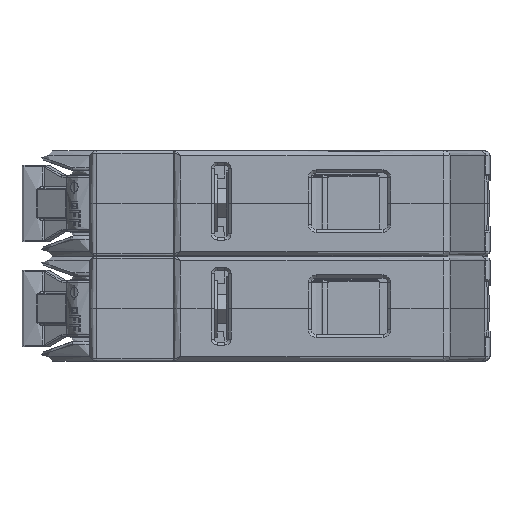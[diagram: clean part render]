
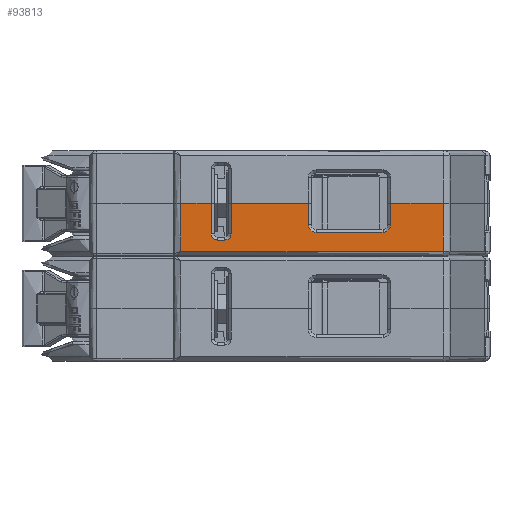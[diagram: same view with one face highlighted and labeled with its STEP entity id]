
A CAD part, left-side view. The second image highlights one B-rep face of the part: STEP entity #93813.
In plain terms, the highlighted planar face has unit normal (-1, 0, 0).
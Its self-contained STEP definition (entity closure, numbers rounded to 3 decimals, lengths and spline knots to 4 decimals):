
#1330=LINE($,#133431,#12550);
#1570=LINE($,#134548,#12790);
#1571=LINE($,#134552,#12791);
#1572=LINE($,#134554,#12792);
#1573=LINE($,#134556,#12793);
#1574=LINE($,#134560,#12794);
#1575=LINE($,#134564,#12795);
#1576=LINE($,#134566,#12796);
#1577=LINE($,#134567,#12797);
#1578=LINE($,#134569,#12798);
#1579=LINE($,#134571,#12799);
#1580=LINE($,#134575,#12800);
#12550=VECTOR($,#106883,1.7176);
#12790=VECTOR($,#107439,0.313);
#12791=VECTOR($,#107442,0.139);
#12792=VECTOR($,#107443,0.505);
#12793=VECTOR($,#107444,0.2);
#12794=VECTOR($,#107447,0.05);
#12795=VECTOR($,#107450,0.2);
#12796=VECTOR($,#107451,0.199);
#12797=VECTOR($,#107452,0.313);
#12798=VECTOR($,#107453,0.3436);
#12799=VECTOR($,#107454,0.139);
#12800=VECTOR($,#107457,0.438);
#26215=FACE_OUTER_BOUND($,#31150,.T.);
#31150=EDGE_LOOP($,(#64952,#64953,#64954,#64955,#64956,#64957,#64958,#64959,
#64960,#64961,#64962,#64963,#64964,#64965,#64966,#64967));
#36466=CIRCLE($,#99007,0.04);
#36467=CIRCLE($,#99008,0.04);
#36468=CIRCLE($,#99009,0.051);
#36469=CIRCLE($,#99010,0.051);
#39086=VERTEX_POINT($,#133426);
#39087=VERTEX_POINT($,#133430);
#39372=VERTEX_POINT($,#134546);
#39373=VERTEX_POINT($,#134550);
#39374=VERTEX_POINT($,#134551);
#39375=VERTEX_POINT($,#134553);
#39376=VERTEX_POINT($,#134555);
#39377=VERTEX_POINT($,#134557);
#39378=VERTEX_POINT($,#134559);
#39379=VERTEX_POINT($,#134561);
#39380=VERTEX_POINT($,#134563);
#39381=VERTEX_POINT($,#134565);
#39382=VERTEX_POINT($,#134568);
#39383=VERTEX_POINT($,#134570);
#39384=VERTEX_POINT($,#134572);
#39385=VERTEX_POINT($,#134574);
#49199=EDGE_CURVE($,#39086,#39087,#1330,.T.);
#49547=EDGE_CURVE($,#39086,#39372,#1570,.T.);
#49548=EDGE_CURVE($,#39373,#39374,#1571,.T.);
#49549=EDGE_CURVE($,#39374,#39375,#1572,.T.);
#49550=EDGE_CURVE($,#39375,#39376,#1573,.T.);
#49551=EDGE_CURVE($,#39376,#39377,#36466,.T.);
#49552=EDGE_CURVE($,#39377,#39378,#1574,.T.);
#49553=EDGE_CURVE($,#39378,#39379,#36467,.T.);
#49554=EDGE_CURVE($,#39379,#39380,#1575,.T.);
#49555=EDGE_CURVE($,#39380,#39381,#1576,.T.);
#49556=EDGE_CURVE($,#39381,#39087,#1577,.T.);
#49557=EDGE_CURVE($,#39372,#39382,#1578,.T.);
#49558=EDGE_CURVE($,#39382,#39383,#1579,.T.);
#49559=EDGE_CURVE($,#39383,#39384,#36468,.T.);
#49560=EDGE_CURVE($,#39384,#39385,#1580,.T.);
#49561=EDGE_CURVE($,#39385,#39373,#36469,.T.);
#64952=ORIENTED_EDGE($,*,*,#49548,.T.);
#64953=ORIENTED_EDGE($,*,*,#49549,.T.);
#64954=ORIENTED_EDGE($,*,*,#49550,.T.);
#64955=ORIENTED_EDGE($,*,*,#49551,.T.);
#64956=ORIENTED_EDGE($,*,*,#49552,.T.);
#64957=ORIENTED_EDGE($,*,*,#49553,.T.);
#64958=ORIENTED_EDGE($,*,*,#49554,.T.);
#64959=ORIENTED_EDGE($,*,*,#49555,.T.);
#64960=ORIENTED_EDGE($,*,*,#49556,.T.);
#64961=ORIENTED_EDGE($,*,*,#49199,.F.);
#64962=ORIENTED_EDGE($,*,*,#49547,.T.);
#64963=ORIENTED_EDGE($,*,*,#49557,.T.);
#64964=ORIENTED_EDGE($,*,*,#49558,.T.);
#64965=ORIENTED_EDGE($,*,*,#49559,.T.);
#64966=ORIENTED_EDGE($,*,*,#49560,.T.);
#64967=ORIENTED_EDGE($,*,*,#49561,.T.);
#90707=PLANE($,#99006);
#93813=ADVANCED_FACE($,(#26215),#90707,.T.);
#99006=AXIS2_PLACEMENT_3D($,#134549,#107440,#107441);
#99007=AXIS2_PLACEMENT_3D($,#134558,#107445,#107446);
#99008=AXIS2_PLACEMENT_3D($,#134562,#107448,#107449);
#99009=AXIS2_PLACEMENT_3D($,#134573,#107455,#107456);
#99010=AXIS2_PLACEMENT_3D($,#134576,#107458,#107459);
#106883=DIRECTION($,(0.,1.,0.));
#107439=DIRECTION($,(0.,0.,1.));
#107440=DIRECTION('center_axis',(-1.,0.,0.));
#107441=DIRECTION('ref_axis',(0.,-1.,0.));
#107442=DIRECTION($,(0.,0.,1.));
#107443=DIRECTION($,(0.,1.,0.));
#107444=DIRECTION($,(0.,0.,-1.));
#107445=DIRECTION('center_axis',(1.,0.,0.));
#107446=DIRECTION('ref_axis',(0.,0.,-1.));
#107447=DIRECTION($,(0.,1.,0.));
#107448=DIRECTION('center_axis',(1.,0.,0.));
#107449=DIRECTION('ref_axis',(0.,0.,-1.));
#107450=DIRECTION($,(0.,0.,1.));
#107451=DIRECTION($,(0.,1.,0.));
#107452=DIRECTION($,(0.,0.,-1.));
#107453=DIRECTION($,(0.,1.,0.));
#107454=DIRECTION($,(0.,0.,-1.));
#107455=DIRECTION('center_axis',(1.,0.,0.));
#107456=DIRECTION('ref_axis',(0.,0.,-1.));
#107457=DIRECTION($,(0.,1.,0.));
#107458=DIRECTION('center_axis',(1.,0.,0.));
#107459=DIRECTION('ref_axis',(0.,0.,-1.));
#133426=CARTESIAN_POINT('',(-1.73,-1.5746,-0.313));
#133430=CARTESIAN_POINT('',(-1.73,0.143,-0.313));
#133431=CARTESIAN_POINT($,(-1.73,-1.5746,-0.313));
#134546=CARTESIAN_POINT('',(-1.73,-1.5746,0.));
#134548=CARTESIAN_POINT($,(-1.73,-1.5746,-0.313));
#134549=CARTESIAN_POINT('Origin',(-1.73,0.19,0.));
#134550=CARTESIAN_POINT('',(-1.73,-0.691,-0.139));
#134551=CARTESIAN_POINT('',(-1.73,-0.691,0.));
#134552=CARTESIAN_POINT($,(-1.73,-0.691,-0.0348));
#134553=CARTESIAN_POINT('',(-1.73,-0.186,0.));
#134554=CARTESIAN_POINT($,(-1.73,-0.691,0.));
#134555=CARTESIAN_POINT('',(-1.73,-0.186,-0.2));
#134556=CARTESIAN_POINT($,(-1.73,-0.186,-0.05));
#134557=CARTESIAN_POINT('',(-1.73,-0.146,-0.24));
#134558=CARTESIAN_POINT('Origin',(-1.73,-0.146,-0.2));
#134559=CARTESIAN_POINT('',(-1.73,-0.096,-0.24));
#134560=CARTESIAN_POINT($,(-1.73,0.0345,-0.24));
#134561=CARTESIAN_POINT('',(-1.73,-0.056,-0.2));
#134562=CARTESIAN_POINT('Origin',(-1.73,-0.096,-0.2));
#134563=CARTESIAN_POINT('',(-1.73,-0.056,0.));
#134564=CARTESIAN_POINT($,(-1.73,-0.056,-0.05));
#134565=CARTESIAN_POINT('',(-1.73,0.143,0.));
#134566=CARTESIAN_POINT($,(-1.73,-0.056,0.));
#134567=CARTESIAN_POINT($,(-1.73,0.143,0.));
#134568=CARTESIAN_POINT('',(-1.73,-1.231,0.));
#134569=CARTESIAN_POINT($,(-1.73,-1.5746,0.));
#134570=CARTESIAN_POINT('',(-1.73,-1.231,-0.139));
#134571=CARTESIAN_POINT($,(-1.73,-1.231,-0.0348));
#134572=CARTESIAN_POINT('',(-1.73,-1.18,-0.19));
#134573=CARTESIAN_POINT('Origin',(-1.73,-1.18,-0.139));
#134574=CARTESIAN_POINT('',(-1.73,-0.742,-0.19));
#134575=CARTESIAN_POINT($,(-1.73,-0.3855,-0.19));
#134576=CARTESIAN_POINT('Origin',(-1.73,-0.742,-0.139));
